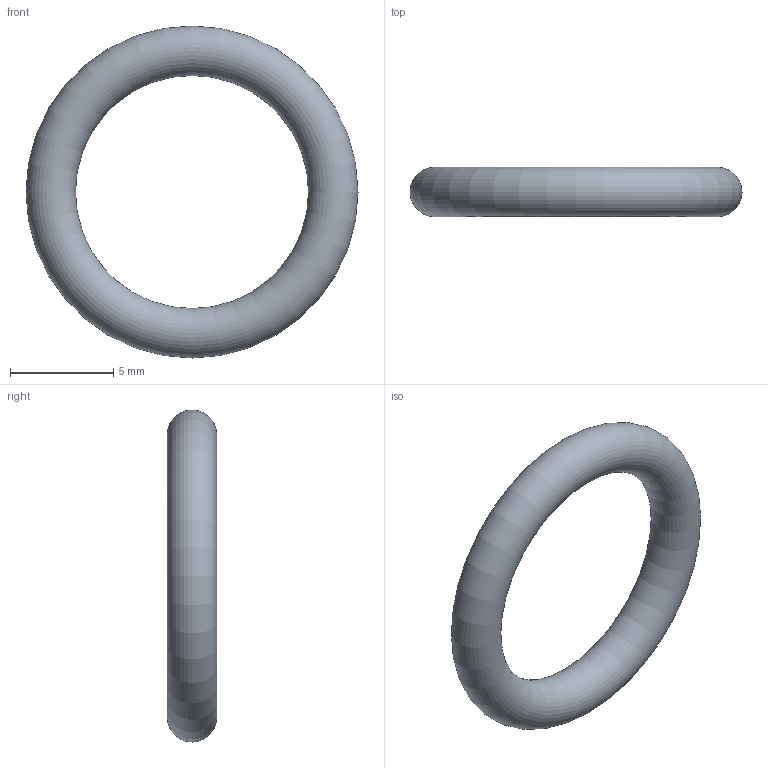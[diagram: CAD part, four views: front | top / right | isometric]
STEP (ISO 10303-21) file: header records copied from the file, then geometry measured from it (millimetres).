
FILE_DESCRIPTION( ( 'STEP AP203' ), '1' );
FILE_NAME( 'C:/Temp/Ganter_Step_05_03_2020/data/3_5/or638/O-Ring OR638-11.30-2.40-70.stp', '2020-03-12T13:44:25', ( 'License CC BY-ND 4.0' ), ( 'CADENAS' ), ' ', 'PARTsolutions', ' ' );
FILE_SCHEMA( ( 'CONFIG_CONTROL_DESIGN' ) );
Length unit declared in the file: millimetre
Products named in the file (1): _O-Ring OR638-11.30-2.40-70
Bounding box: 16.1 x 2.4 x 16.1 mm (x, y, z)
Volume: 194.7 mm3; surface area: 324.5 mm2
Topology: 1 solids, 1 shells, 1 faces, 2 edges, 1 vertices
Faces by surface type: torus 1
Entity records: 62 total; most frequent: CC_DESIGN_PERSON_AND_ORGANIZATION_ASSIGNMENT 5, PERSON_AND_ORGANIZATION_ROLE 4, DIRECTION 4, CARTESIAN_POINT 3, DATE_TIME_ROLE 2, CC_DESIGN_DATE_AND_TIME_ASSIGNMENT 2, AXIS2_PLACEMENT_3D 2, DIMENSIONAL_EXPONENTS 2
